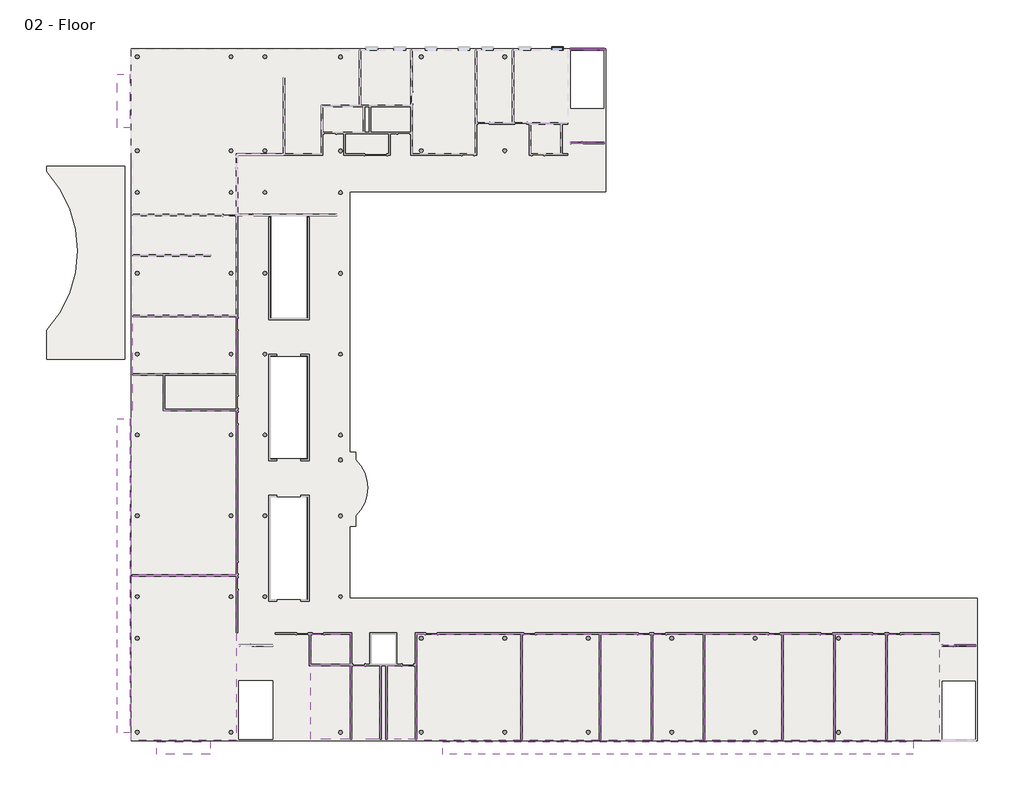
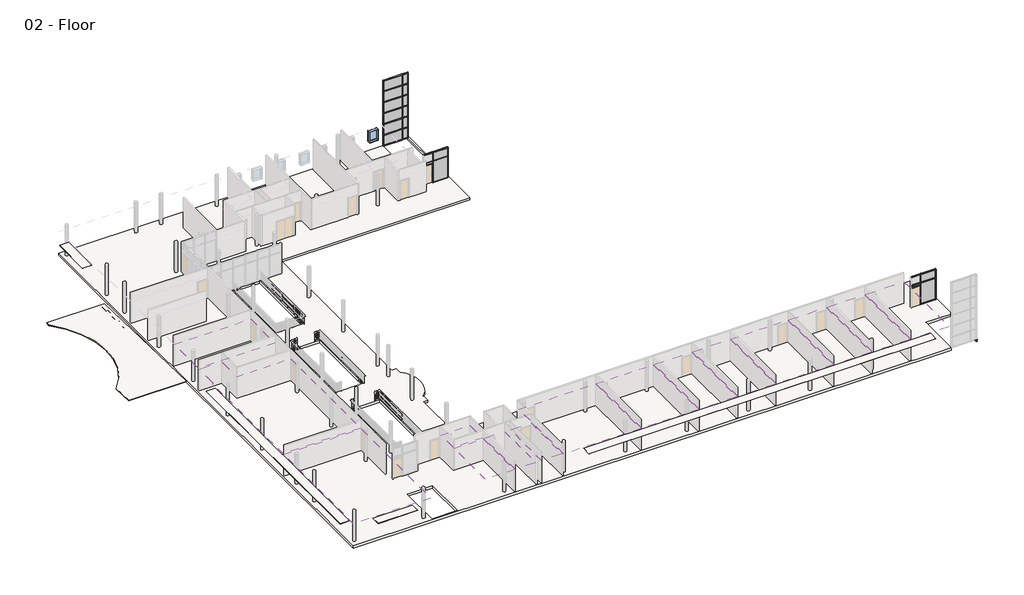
# One storey, part 4 of 5: 63 members, 17 plates, 15 coverings, 5 slabs, 1 roof, 1 window.
"""IFC4 building model written with IfcOpenShell, lengths in millimetres."""

from ifc_helpers import new_model, si_unit, point, frame, frame_2d, origin, place, context, project, spatial, polyline, circle_curve, ellipse_curve, trimmed, segment, composite_curve, outline, extrude, transform, mapped, element, save
from ifc_brep_helpers import plane_surface, revolved_surface, advanced_brep
from components import member_18e22e2d, member_9193c932, member_2b49869a, member_75074519, member_4f18b2ac, member_7a85b04f, member_0b7646a3, member_aaa03826, member_6186cc23, member_5d67b9fc, member_a50b3cda, member_c327c56d, member_410c6227, member_73c23c35, member_bcb6a316, member_d3323a85, member_7bd2cd2c, member_6be37683, member_e7b2e991, member_6c34f49c, member_dff87739, member_76223ac8, system_panel_glazed_ac179f57, system_panel_glazed_576e2b42, system_panel_glazed_d796fc41, system_panel_glazed_17912afe, system_panel_glazed_8dc8626f, system_panel_glazed_bb2f95a6, system_panel_glazed_de38c793, system_panel_glazed_3fe504bb, system_panel_glazed_00df446d, window_dfee3f32

model = new_model("IFC4")

# Units and contexts
model_context = context("Model", 3, world=origin())
ifc_project = project(units=[si_unit("LENGTHUNIT", "METRE", prefix="MILLI")], contexts=[model_context])

# Site, building, storey
site = spatial("IfcSite", under=ifc_project)
building = spatial("IfcBuilding", under=site)
storey = spatial("IfcBuildingStorey", under=building, Name="02 - Floor", Elevation=3657.6)

# Coverings
placement = place(None, origin())
element("IfcCovering", 1, ObjectType="2' x 2' ACT System", at=placement, inside=storey, context=model_context, shape_type="SweptSolid", body=[
    extrude(outline(polyline([(8370.2207476, 28520.95), (280.3207476, 28520.95), (280.3207476, 32965.95), (8370.2207476, 32965.95), (8370.2207476, 28520.95)])), frame((0.0, 0.0, 6096.0), z_axis=(0.0, 0.0, 1.0), x_axis=(1.0, 0.0, 0.0)), (0.0, 0.0, 1.0), 57.15),
])
element("IfcCovering", 2, ObjectType="2' x 2' ACT System", at=placement, inside=storey, context=model_context, shape_type="SweptSolid", body=[
    extrude(outline(polyline([(178.7207476, 12849.15), (178.7207476, 25701.55), (280.3207476, 25701.55), (280.3207476, 28406.65), (2661.5707476, 28406.65), (2661.5707476, 25638.05), (8370.2207476, 25638.05), (8370.2207476, 12849.15), (178.7207476, 12849.15)])), frame((0.0, 0.0, 6096.0), z_axis=(0.0, 0.0, 1.0), x_axis=(1.0, 0.0, 0.0)), (0.0, 0.0, 1.0), 57.15),
])
element("IfcCovering", 3, ObjectType="2' x 2' ACT System", at=placement, inside=storey, context=model_context, shape_type="SweptSolid", body=[
    extrude(outline(polyline([(17241.1707476, 5775.25), (17241.1707476, 53.9), (14180.4707476, 53.9), (14180.4707476, 5775.25), (17241.1707476, 5775.25)])), frame((0.0, 0.0, 6096.0), z_axis=(0.0, 0.0, 1.0), x_axis=(1.0, 0.0, 0.0)), (0.0, 0.0, 1.0), 57.15),
])
element("IfcCovering", 4, ObjectType="2' x 2' ACT System", at=placement, inside=storey, context=model_context, shape_type="SweptSolid", body=[
    extrude(outline(polyline([(14180.4707476, 8220.0), (17241.1707476, 8220.0), (17241.1707476, 5889.55), (14180.4707476, 5889.55), (14180.4707476, 8220.0)])), frame((0.0, 0.0, 6096.0), z_axis=(0.0, 0.0, 1.0), x_axis=(1.0, 0.0, 0.0)), (0.0, 0.0, 1.0), 57.15),
])
element("IfcCovering", 5, ObjectType="2' x 2' ACT System", at=placement, inside=storey, context=model_context, shape_type="SweptSolid", body=[
    extrude(outline(polyline([(19527.1707476, 53.9), (17355.4707476, 53.9), (17355.4707476, 5775.25), (19527.1707476, 5775.25), (19527.1707476, 53.9)])), frame((0.0, 0.0, 6096.0), z_axis=(0.0, 0.0, 1.0), x_axis=(1.0, 0.0, 0.0)), (0.0, 0.0, 1.0), 57.15),
])
element("IfcCovering", 6, ObjectType="2' x 2' ACT System", at=placement, inside=storey, context=model_context, shape_type="SweptSolid", body=[
    extrude(outline(polyline([(22308.4707476, 5775.25), (22308.4707476, 53.9), (20124.0707476, 53.9), (20124.0707476, 5775.25), (22308.4707476, 5775.25)])), frame((0.0, 0.0, 6096.0), z_axis=(0.0, 0.0, 1.0), x_axis=(1.0, 0.0, 0.0)), (0.0, 0.0, 1.0), 57.15),
])
element("IfcCovering", 7, ObjectType="2' x 2' ACT System", at=placement, inside=storey, context=model_context, shape_type="SweptSolid", body=[
    extrude(outline(polyline([(30538.0707476, 8220.0), (30538.0707476, -47.7), (22422.7707476, -47.7), (22422.7707476, 8220.0), (30538.0707476, 8220.0)])), frame((0.0, 0.0, 6096.0), z_axis=(0.0, 0.0, 1.0), x_axis=(1.0, 0.0, 0.0)), (0.0, 0.0, 1.0), 57.15),
])
element("IfcCovering", 8, ObjectType="2' x 2' ACT System", at=placement, inside=storey, context=model_context, shape_type="SweptSolid", body=[
    extrude(outline(polyline([(36634.0707476, 8220.0), (36634.0707476, -47.7), (30652.3707476, -47.7), (30652.3707476, 8220.0), (36634.0707476, 8220.0)])), frame((0.0, 0.0, 6096.0), z_axis=(0.0, 0.0, 1.0), x_axis=(1.0, 0.0, 0.0)), (0.0, 0.0, 1.0), 57.15),
])
element("IfcCovering", 9, ObjectType="2' x 2' ACT System", at=placement, inside=storey, context=model_context, shape_type="SweptSolid", body=[
    extrude(outline(polyline([(40698.0707476, 8220.0), (40698.0707476, -47.7), (36748.3707476, -47.7), (36748.3707476, 8220.0), (40698.0707476, 8220.0)])), frame((0.0, 0.0, 6096.0), z_axis=(0.0, 0.0, 1.0), x_axis=(1.0, 0.0, 0.0)), (0.0, 0.0, 1.0), 57.15),
])
element("IfcCovering", 10, ObjectType="2' x 2' ACT System", at=placement, inside=storey, context=model_context, shape_type="SweptSolid", body=[
    extrude(outline(polyline([(44762.0707476, 8220.0), (44762.0707476, -47.7), (40812.3707476, -47.7), (40812.3707476, 8220.0), (44762.0707476, 8220.0)])), frame((0.0, 0.0, 6096.0), z_axis=(0.0, 0.0, 1.0), x_axis=(1.0, 0.0, 0.0)), (0.0, 0.0, 1.0), 57.15),
])
element("IfcCovering", 11, ObjectType="2' x 2' ACT System", at=placement, inside=storey, context=model_context, shape_type="SweptSolid", body=[
    extrude(outline(polyline([(50858.0707476, 8220.0), (50858.0707476, -47.7), (44876.3707476, -47.7), (44876.3707476, 8220.0), (50858.0707476, 8220.0)])), frame((0.0, 0.0, 6096.0), z_axis=(0.0, 0.0, 1.0), x_axis=(1.0, 0.0, 0.0)), (0.0, 0.0, 1.0), 57.15),
])
element("IfcCovering", 12, ObjectType="2' x 2' ACT System", at=placement, inside=storey, context=model_context, shape_type="SweptSolid", body=[
    extrude(outline(polyline([(54922.0707476, 8220.0), (54922.0707476, -47.7), (50972.3707476, -47.7), (50972.3707476, 8220.0), (54922.0707476, 8220.0)])), frame((0.0, 0.0, 6096.0), z_axis=(0.0, 0.0, 1.0), x_axis=(1.0, 0.0, 0.0)), (0.0, 0.0, 1.0), 57.15),
])
element("IfcCovering", 13, ObjectType="2' x 2' ACT System", at=placement, inside=storey, context=model_context, shape_type="SweptSolid", body=[
    extrude(outline(polyline([(58986.0707476, 8220.0), (58986.0707476, -47.7), (55036.3707476, -47.7), (55036.3707476, 8220.0), (58986.0707476, 8220.0)])), frame((0.0, 0.0, 6096.0), z_axis=(0.0, 0.0, 1.0), x_axis=(1.0, 0.0, 0.0)), (0.0, 0.0, 1.0), 57.15),
])
element("IfcCovering", 14, ObjectType="2' x 2' ACT System", at=placement, inside=storey, context=model_context, shape_type="SweptSolid", body=[
    extrude(outline(polyline([(63137.3832476, 8220.0), (63137.3832476, -47.7), (59100.3707476, -47.7), (59100.3707476, 8220.0), (63137.3832476, 8220.0)])), frame((0.0, 0.0, 6096.0), z_axis=(0.0, 0.0, 1.0), x_axis=(1.0, 0.0, 0.0)), (0.0, 0.0, 1.0), 57.15),
])
element("IfcCovering", 15, ObjectType="2' x 2' ACT System", at=placement, inside=storey, context=model_context, shape_type="SweptSolid", body=[
    extrude(outline(polyline([(8357.5207476, -47.7), (178.7207476, -47.7), (178.7207476, 12734.85), (8370.2207476, 12734.85), (8370.2207476, 8334.3), (8357.5207476, 8334.3), (8357.5207476, -47.7)])), frame((0.0, 0.0, 6096.0), z_axis=(0.0, 0.0, 1.0), x_axis=(1.0, 0.0, 0.0)), (0.0, 0.0, 1.0), 57.15),
])

# Members
member_shape = member_18e22e2d(model_context)
element("IfcMember", 16, ObjectType="Rectangular Mullion : 2.5\" x 5\" rectangular", at=placement, inside=storey, context=model_context, shape_type="MappedRepresentation", body=[
    mapped(member_shape, transform((35414.8707476, 46523.2, 6096.0), x_axis=(1.0, 0.0, 0.0), y_axis=(0.0, -1.0, 0.0), z_axis=(0.0, 0.0, -1.0))),
])
element("IfcMember", 17, ObjectType="Rectangular Mullion : 2.5\" x 5\" rectangular", at=placement, inside=storey, context=model_context, shape_type="MappedRepresentation", body=[
    mapped(member_shape, transform((64358.1707476, 7356.4, 6096.0), x_axis=(1.0, 0.0, 0.0), y_axis=(0.0, -1.0, 0.0), z_axis=(0.0, 0.0, -1.0))),
])
member_2_shape = member_9193c932(model_context)
element("IfcMember", 18, ObjectType="Rectangular Mullion : 2.5\" x 5\" rectangular", at=placement, inside=storey, context=model_context, shape_type="MappedRepresentation", body=[
    mapped(member_2_shape, transform((66002.8207476, 7356.4, 6096.0), x_axis=(1.0, 0.0, 0.0), y_axis=(0.0, -1.0, 0.0), z_axis=(0.0, 0.0, -1.0))),
])
element("IfcMember", 19, ObjectType="Rectangular Mullion : 2.5\" x 5\" rectangular", at=placement, inside=storey, context=model_context, shape_type="MappedRepresentation", body=[
    mapped(member_2_shape, transform((37046.8207476, 46523.2, 6096.0), x_axis=(1.0, 0.0, 0.0), y_axis=(0.0, -1.0, 0.0), z_axis=(0.0, 0.0, -1.0))),
])
member_3_shape = member_2b49869a(model_context)
element("IfcMember", 20, ObjectType="Rectangular Mullion : 2.5\" x 5\" rectangular", at=placement, inside=storey, context=model_context, shape_type="MappedRepresentation", body=[
    mapped(member_3_shape, transform((36437.2207476, 53825.7, 9753.6), x_axis=(1.0, 0.0, 0.0), y_axis=(0.0, -1.0, 0.0), z_axis=(0.0, 0.0, -1.0))),
])
member_4_shape = member_75074519(model_context)
element("IfcMember", 21, ObjectType="Rectangular Mullion : 2.5\" x 5\" rectangular", at=placement, inside=storey, context=model_context, shape_type="MappedRepresentation", body=[
    mapped(member_4_shape, transform((34405.2207476, 53825.7, 10972.8), x_axis=(-1.0, 0.0, 0.0), y_axis=(0.0, -1.0, 0.0), z_axis=(0.0, 0.0, 1.0))),
])
element("IfcMember", 22, ObjectType="Rectangular Mullion : 2.5\" x 5\" rectangular", at=placement, inside=storey, context=model_context, shape_type="MappedRepresentation", body=[
    mapped(member_4_shape, transform((37046.8207476, 53825.7, 9753.6), x_axis=(1.0, 0.0, 0.0), y_axis=(0.0, -1.0, 0.0), z_axis=(0.0, 0.0, -1.0))),
])
member_5_shape = member_4f18b2ac(model_context)
element("IfcMember", 23, ObjectType="Rectangular Mullion : 2.5\" x 5\" rectangular", at=placement, inside=storey, context=model_context, shape_type="MappedRepresentation", body=[
    mapped(member_5_shape, transform((34468.7207476, 53825.7, 3657.6), x_axis=(0.0, 0.0, -1.0), y_axis=(0.0, -1.0, 0.0), z_axis=(-1.0, 0.0, 0.0))),
])
element("IfcMember", 24, ObjectType="Rectangular Mullion : 2.5\" x 5\" rectangular", at=placement, inside=storey, context=model_context, shape_type="MappedRepresentation", body=[
    mapped(member_5_shape, transform((36405.4707476, 53825.7, 10972.8), x_axis=(0.0, 0.0, 1.0), y_axis=(0.0, -1.0, 0.0), z_axis=(1.0, 0.0, 0.0))),
])
member_6_shape = member_7a85b04f(model_context)
element("IfcMember", 25, ObjectType="Rectangular Mullion : 2.5\" x 5\" rectangular", at=placement, inside=storey, context=model_context, shape_type="MappedRepresentation", body=[
    mapped(member_6_shape, transform((36405.4707476, 53825.7, 4876.8), x_axis=(0.0, 0.0, 1.0), y_axis=(0.0, -1.0, 0.0), z_axis=(1.0, 0.0, 0.0))),
])
element("IfcMember", 26, ObjectType="Rectangular Mullion : 2.5\" x 5\" rectangular", at=placement, inside=storey, context=model_context, shape_type="MappedRepresentation", body=[
    mapped(member_6_shape, transform((36405.4707476, 53825.7, 6096.0), x_axis=(0.0, 0.0, 1.0), y_axis=(0.0, -1.0, 0.0), z_axis=(1.0, 0.0, 0.0))),
])
element("IfcMember", 27, ObjectType="Rectangular Mullion : 2.5\" x 5\" rectangular", at=placement, inside=storey, context=model_context, shape_type="MappedRepresentation", body=[
    mapped(member_6_shape, transform((36405.4707476, 53825.7, 7315.2), x_axis=(0.0, 0.0, 1.0), y_axis=(0.0, -1.0, 0.0), z_axis=(1.0, 0.0, 0.0))),
])
element("IfcMember", 28, ObjectType="Rectangular Mullion : 2.5\" x 5\" rectangular", at=placement, inside=storey, context=model_context, shape_type="MappedRepresentation", body=[
    mapped(member_6_shape, transform((36405.4707476, 53825.7, 8534.4), x_axis=(0.0, 0.0, 1.0), y_axis=(0.0, -1.0, 0.0), z_axis=(1.0, 0.0, 0.0))),
])
element("IfcMember", 29, ObjectType="Rectangular Mullion : 2.5\" x 5\" rectangular", at=placement, inside=storey, context=model_context, shape_type="MappedRepresentation", body=[
    mapped(member_6_shape, transform((36405.4707476, 53825.7, 9753.6), x_axis=(0.0, 0.0, 1.0), y_axis=(0.0, -1.0, 0.0), z_axis=(1.0, 0.0, 0.0))),
])
element("IfcMember", 30, ObjectType="Rectangular Mullion : 2.5\" x 5\" rectangular", at=placement, inside=storey, context=model_context, shape_type="MappedRepresentation", body=[
    mapped(member_3_shape, transform((36437.2207476, 53825.7, 3657.6), x_axis=(1.0, 0.0, 0.0), y_axis=(0.0, -1.0, 0.0), z_axis=(0.0, 0.0, -1.0))),
])
element("IfcMember", 31, ObjectType="Rectangular Mullion : 2.5\" x 5\" rectangular", at=placement, inside=storey, context=model_context, shape_type="MappedRepresentation", body=[
    mapped(member_3_shape, transform((36437.2207476, 53825.7, 4876.8), x_axis=(1.0, 0.0, 0.0), y_axis=(0.0, -1.0, 0.0), z_axis=(0.0, 0.0, -1.0))),
])
element("IfcMember", 32, ObjectType="Rectangular Mullion : 2.5\" x 5\" rectangular", at=placement, inside=storey, context=model_context, shape_type="MappedRepresentation", body=[
    mapped(member_3_shape, transform((36437.2207476, 53825.7, 6096.0), x_axis=(1.0, 0.0, 0.0), y_axis=(0.0, -1.0, 0.0), z_axis=(0.0, 0.0, -1.0))),
])
element("IfcMember", 33, ObjectType="Rectangular Mullion : 2.5\" x 5\" rectangular", at=placement, inside=storey, context=model_context, shape_type="MappedRepresentation", body=[
    mapped(member_3_shape, transform((36437.2207476, 53825.7, 7315.2), x_axis=(1.0, 0.0, 0.0), y_axis=(0.0, -1.0, 0.0), z_axis=(0.0, 0.0, -1.0))),
])
element("IfcMember", 34, ObjectType="Rectangular Mullion : 2.5\" x 5\" rectangular", at=placement, inside=storey, context=model_context, shape_type="MappedRepresentation", body=[
    mapped(member_3_shape, transform((36437.2207476, 53825.7, 8534.4), x_axis=(1.0, 0.0, 0.0), y_axis=(0.0, -1.0, 0.0), z_axis=(0.0, 0.0, -1.0))),
])
member_7_shape = member_0b7646a3(model_context)
element("IfcMember", 35, ObjectType="Rectangular Mullion : 2.5\" x 5\" rectangular", at=placement, inside=storey, context=model_context, shape_type="MappedRepresentation", body=[
    mapped(member_7_shape, transform((36983.3207476, 53825.7, 10972.8), x_axis=(0.0, 0.0, 1.0), y_axis=(0.0, -1.0, 0.0), z_axis=(1.0, 0.0, 0.0))),
])
element("IfcMember", 36, ObjectType="Rectangular Mullion : 2.5\" x 5\" rectangular", at=placement, inside=storey, context=model_context, shape_type="MappedRepresentation", body=[
    mapped(member_7_shape, transform((36468.9707476, 53825.7, 3657.6), x_axis=(0.0, 0.0, -1.0), y_axis=(0.0, -1.0, 0.0), z_axis=(-1.0, 0.0, 0.0))),
])
member_8_shape = member_aaa03826(model_context)
element("IfcMember", 37, ObjectType="Rectangular Mullion : 2.5\" x 5\" rectangular", at=placement, inside=storey, context=model_context, shape_type="MappedRepresentation", body=[
    mapped(member_8_shape, transform((36983.3207476, 53825.7, 4876.8), x_axis=(0.0, 0.0, 1.0), y_axis=(0.0, -1.0, 0.0), z_axis=(1.0, 0.0, 0.0))),
])
element("IfcMember", 38, ObjectType="Rectangular Mullion : 2.5\" x 5\" rectangular", at=placement, inside=storey, context=model_context, shape_type="MappedRepresentation", body=[
    mapped(member_8_shape, transform((36983.3207476, 53825.7, 6096.0), x_axis=(0.0, 0.0, 1.0), y_axis=(0.0, -1.0, 0.0), z_axis=(1.0, 0.0, 0.0))),
])
element("IfcMember", 39, ObjectType="Rectangular Mullion : 2.5\" x 5\" rectangular", at=placement, inside=storey, context=model_context, shape_type="MappedRepresentation", body=[
    mapped(member_8_shape, transform((36983.3207476, 53825.7, 7315.2), x_axis=(0.0, 0.0, 1.0), y_axis=(0.0, -1.0, 0.0), z_axis=(1.0, 0.0, 0.0))),
])
element("IfcMember", 40, ObjectType="Rectangular Mullion : 2.5\" x 5\" rectangular", at=placement, inside=storey, context=model_context, shape_type="MappedRepresentation", body=[
    mapped(member_8_shape, transform((36983.3207476, 53825.7, 8534.4), x_axis=(0.0, 0.0, 1.0), y_axis=(0.0, -1.0, 0.0), z_axis=(1.0, 0.0, 0.0))),
])
element("IfcMember", 41, ObjectType="Rectangular Mullion : 2.5\" x 5\" rectangular", at=placement, inside=storey, context=model_context, shape_type="MappedRepresentation", body=[
    mapped(member_8_shape, transform((36983.3207476, 53825.7, 9753.6), x_axis=(0.0, 0.0, 1.0), y_axis=(0.0, -1.0, 0.0), z_axis=(1.0, 0.0, 0.0))),
])
element("IfcMember", 42, ObjectType="Rectangular Mullion : 2.5\" x 5\" rectangular", at=placement, inside=storey, context=model_context, shape_type="MappedRepresentation", body=[
    mapped(member_4_shape, transform((37046.8207476, 53825.7, 3657.6), x_axis=(1.0, 0.0, 0.0), y_axis=(0.0, -1.0, 0.0), z_axis=(0.0, 0.0, -1.0))),
])
element("IfcMember", 43, ObjectType="Rectangular Mullion : 2.5\" x 5\" rectangular", at=placement, inside=storey, context=model_context, shape_type="MappedRepresentation", body=[
    mapped(member_4_shape, transform((37046.8207476, 53825.7, 4876.8), x_axis=(1.0, 0.0, 0.0), y_axis=(0.0, -1.0, 0.0), z_axis=(0.0, 0.0, -1.0))),
])
element("IfcMember", 44, ObjectType="Rectangular Mullion : 2.5\" x 5\" rectangular", at=placement, inside=storey, context=model_context, shape_type="MappedRepresentation", body=[
    mapped(member_4_shape, transform((37046.8207476, 53825.7, 6096.0), x_axis=(1.0, 0.0, 0.0), y_axis=(0.0, -1.0, 0.0), z_axis=(0.0, 0.0, -1.0))),
])
element("IfcMember", 45, ObjectType="Rectangular Mullion : 2.5\" x 5\" rectangular", at=placement, inside=storey, context=model_context, shape_type="MappedRepresentation", body=[
    mapped(member_4_shape, transform((37046.8207476, 53825.7, 7315.2), x_axis=(1.0, 0.0, 0.0), y_axis=(0.0, -1.0, 0.0), z_axis=(0.0, 0.0, -1.0))),
])
element("IfcMember", 46, ObjectType="Rectangular Mullion : 2.5\" x 5\" rectangular", at=placement, inside=storey, context=model_context, shape_type="MappedRepresentation", body=[
    mapped(member_4_shape, transform((37046.8207476, 53825.7, 8534.4), x_axis=(1.0, 0.0, 0.0), y_axis=(0.0, -1.0, 0.0), z_axis=(0.0, 0.0, -1.0))),
])
element("IfcMember", 47, ObjectType="Rectangular Mullion : 2.5\" x 5\" rectangular", at=placement, inside=storey, context=model_context, shape_type="MappedRepresentation", body=[
    mapped(member_4_shape, transform((34405.2207476, 53825.7, 4876.8), x_axis=(-1.0, 0.0, 0.0), y_axis=(0.0, -1.0, 0.0), z_axis=(0.0, 0.0, 1.0))),
])
element("IfcMember", 48, ObjectType="Rectangular Mullion : 2.5\" x 5\" rectangular", at=placement, inside=storey, context=model_context, shape_type="MappedRepresentation", body=[
    mapped(member_4_shape, transform((34405.2207476, 53825.7, 6096.0), x_axis=(-1.0, 0.0, 0.0), y_axis=(0.0, -1.0, 0.0), z_axis=(0.0, 0.0, 1.0))),
])
element("IfcMember", 49, ObjectType="Rectangular Mullion : 2.5\" x 5\" rectangular", at=placement, inside=storey, context=model_context, shape_type="MappedRepresentation", body=[
    mapped(member_4_shape, transform((34405.2207476, 53825.7, 7315.2), x_axis=(-1.0, 0.0, 0.0), y_axis=(0.0, -1.0, 0.0), z_axis=(0.0, 0.0, 1.0))),
])
element("IfcMember", 50, ObjectType="Rectangular Mullion : 2.5\" x 5\" rectangular", at=placement, inside=storey, context=model_context, shape_type="MappedRepresentation", body=[
    mapped(member_4_shape, transform((34405.2207476, 53825.7, 8534.4), x_axis=(-1.0, 0.0, 0.0), y_axis=(0.0, -1.0, 0.0), z_axis=(0.0, 0.0, 1.0))),
])
element("IfcMember", 51, ObjectType="Rectangular Mullion : 2.5\" x 5\" rectangular", at=placement, inside=storey, context=model_context, shape_type="MappedRepresentation", body=[
    mapped(member_4_shape, transform((34405.2207476, 53825.7, 9753.6), x_axis=(-1.0, 0.0, 0.0), y_axis=(0.0, -1.0, 0.0), z_axis=(0.0, 0.0, 1.0))),
])
member_9_shape = member_6186cc23(model_context)
element("IfcMember", 52, ObjectType="Rectangular Mullion : 2.5\" x 5\" rectangular", at=placement, inside=storey, context=model_context, shape_type="MappedRepresentation", body=[
    mapped(member_9_shape, transform((35414.8707476, 46523.2, 3657.6), x_axis=(1.0, 0.0, 0.0), y_axis=(0.0, -1.0, 0.0), z_axis=(0.0, 0.0, -1.0))),
])
member_10_shape = member_5d67b9fc(model_context)
element("IfcMember", 53, ObjectType="Rectangular Mullion : 2.5\" x 5\" rectangular", at=placement, inside=storey, context=model_context, shape_type="MappedRepresentation", body=[
    mapped(member_10_shape, transform((35414.8707476, 46523.2, 5822.95), x_axis=(1.0, 0.0, 0.0), y_axis=(0.0, -1.0, 0.0), z_axis=(0.0, 0.0, -1.0))),
])
member_11_shape = member_a50b3cda(model_context)
element("IfcMember", 54, ObjectType="Rectangular Mullion : 2.5\" x 5\" rectangular", at=placement, inside=storey, context=model_context, shape_type="MappedRepresentation", body=[
    mapped(member_11_shape, transform((37046.8207476, 46523.2, 3657.6), x_axis=(1.0, 0.0, 0.0), y_axis=(0.0, -1.0, 0.0), z_axis=(0.0, 0.0, -1.0))),
])
member_12_shape = member_c327c56d(model_context)
element("IfcMember", 55, ObjectType="Rectangular Mullion : 2.5\" x 5\" rectangular", at=placement, inside=storey, context=model_context, shape_type="MappedRepresentation", body=[
    mapped(member_12_shape, transform((37046.8207476, 46523.2, 5822.95), x_axis=(1.0, 0.0, 0.0), y_axis=(0.0, -1.0, 0.0), z_axis=(0.0, 0.0, -1.0))),
])
member_13_shape = member_410c6227(model_context)
element("IfcMember", 56, ObjectType="Rectangular Mullion : 2.5\" x 5\" rectangular", at=placement, inside=storey, context=model_context, shape_type="MappedRepresentation", body=[
    mapped(member_13_shape, transform((35383.1207476, 46523.2, 6096.0), x_axis=(0.0, 0.0, 1.0), y_axis=(0.0, -1.0, 0.0), z_axis=(1.0, 0.0, 0.0))),
])
element("IfcMember", 57, ObjectType="Rectangular Mullion : 2.5\" x 5\" rectangular", at=placement, inside=storey, context=model_context, shape_type="MappedRepresentation", body=[
    mapped(member_13_shape, transform((35383.1207476, 46523.2, 5822.95), x_axis=(0.0, 0.0, 1.0), y_axis=(0.0, -1.0, 0.0), z_axis=(1.0, 0.0, 0.0))),
])
member_14_shape = member_73c23c35(model_context)
element("IfcMember", 58, ObjectType="Rectangular Mullion : 2.5\" x 5\" rectangular", at=placement, inside=storey, context=model_context, shape_type="MappedRepresentation", body=[
    mapped(member_14_shape, transform((35383.1207476, 46523.2, 7061.2), x_axis=(0.0, 0.0, 1.0), y_axis=(0.0, -1.0, 0.0), z_axis=(1.0, 0.0, 0.0))),
])
element("IfcMember", 59, ObjectType="Rectangular Mullion : 2.5\" x 5\" rectangular", at=placement, inside=storey, context=model_context, shape_type="MappedRepresentation", body=[
    mapped(member_11_shape, transform((34405.2207476, 46523.2, 5822.95), x_axis=(-1.0, 0.0, 0.0), y_axis=(0.0, -1.0, 0.0), z_axis=(0.0, 0.0, 1.0))),
])
member_15_shape = member_bcb6a316(model_context)
element("IfcMember", 60, ObjectType="Rectangular Mullion : 2.5\" x 5\" rectangular", at=placement, inside=storey, context=model_context, shape_type="MappedRepresentation", body=[
    mapped(member_15_shape, transform((35726.0207476, 46523.2, 3657.6), x_axis=(0.0, 0.0, -1.0), y_axis=(0.0, -1.0, 0.0), z_axis=(-1.0, 0.0, 0.0))),
])
member_16_shape = member_d3323a85(model_context)
element("IfcMember", 61, ObjectType="Rectangular Mullion : 2.5\" x 5\" rectangular", at=placement, inside=storey, context=model_context, shape_type="MappedRepresentation", body=[
    mapped(member_16_shape, transform((35446.6207476, 46523.2, 3657.6), x_axis=(0.0, 0.0, -1.0), y_axis=(0.0, -1.0, 0.0), z_axis=(-1.0, 0.0, 0.0))),
])
element("IfcMember", 62, ObjectType="Rectangular Mullion : 2.5\" x 5\" rectangular", at=placement, inside=storey, context=model_context, shape_type="MappedRepresentation", body=[
    mapped(member_15_shape, transform((36983.3207476, 46523.2, 7061.2), x_axis=(0.0, 0.0, 1.0), y_axis=(0.0, -1.0, 0.0), z_axis=(1.0, 0.0, 0.0))),
])
element("IfcMember", 63, ObjectType="Rectangular Mullion : 2.5\" x 5\" rectangular", at=placement, inside=storey, context=model_context, shape_type="MappedRepresentation", body=[
    mapped(member_16_shape, transform((35726.0207476, 46523.2, 7061.2), x_axis=(0.0, 0.0, 1.0), y_axis=(0.0, -1.0, 0.0), z_axis=(1.0, 0.0, 0.0))),
])
member_17_shape = member_7bd2cd2c(model_context)
element("IfcMember", 64, ObjectType="Rectangular Mullion : 2.5\" x 5\" rectangular", at=placement, inside=storey, context=model_context, shape_type="MappedRepresentation", body=[
    mapped(member_17_shape, transform((36983.3207476, 46523.2, 6096.0), x_axis=(0.0, 0.0, 1.0), y_axis=(0.0, -1.0, 0.0), z_axis=(1.0, 0.0, 0.0))),
])
member_18_shape = member_6be37683(model_context)
element("IfcMember", 65, ObjectType="Rectangular Mullion : 2.5\" x 5\" rectangular", at=placement, inside=storey, context=model_context, shape_type="MappedRepresentation", body=[
    mapped(member_18_shape, transform((35726.0207476, 46523.2, 6096.0), x_axis=(0.0, 0.0, 1.0), y_axis=(0.0, -1.0, 0.0), z_axis=(1.0, 0.0, 0.0))),
])
element("IfcMember", 66, ObjectType="Rectangular Mullion : 2.5\" x 5\" rectangular", at=placement, inside=storey, context=model_context, shape_type="MappedRepresentation", body=[
    mapped(member_13_shape, transform((64326.4207476, 7356.4, 6096.0), x_axis=(0.0, 0.0, 1.0), y_axis=(0.0, -1.0, 0.0), z_axis=(1.0, 0.0, 0.0))),
])
element("IfcMember", 67, ObjectType="Rectangular Mullion : 2.5\" x 5\" rectangular", at=placement, inside=storey, context=model_context, shape_type="MappedRepresentation", body=[
    mapped(member_13_shape, transform((64326.4207476, 7356.4, 5822.95), x_axis=(0.0, 0.0, 1.0), y_axis=(0.0, -1.0, 0.0), z_axis=(1.0, 0.0, 0.0))),
])
element("IfcMember", 68, ObjectType="Rectangular Mullion : 2.5\" x 5\" rectangular", at=placement, inside=storey, context=model_context, shape_type="MappedRepresentation", body=[
    mapped(member_14_shape, transform((64326.4207476, 7356.4, 7061.2), x_axis=(0.0, 0.0, 1.0), y_axis=(0.0, -1.0, 0.0), z_axis=(1.0, 0.0, 0.0))),
])
element("IfcMember", 69, ObjectType="Rectangular Mullion : 2.5\" x 5\" rectangular", at=placement, inside=storey, context=model_context, shape_type="MappedRepresentation", body=[
    mapped(member_9_shape, transform((64358.1707476, 7356.4, 3657.6), x_axis=(1.0, 0.0, 0.0), y_axis=(0.0, -1.0, 0.0), z_axis=(0.0, 0.0, -1.0))),
])
element("IfcMember", 70, ObjectType="Rectangular Mullion : 2.5\" x 5\" rectangular", at=placement, inside=storey, context=model_context, shape_type="MappedRepresentation", body=[
    mapped(member_10_shape, transform((64358.1707476, 7356.4, 5822.95), x_axis=(1.0, 0.0, 0.0), y_axis=(0.0, -1.0, 0.0), z_axis=(0.0, 0.0, -1.0))),
])
element("IfcMember", 71, ObjectType="Rectangular Mullion : 2.5\" x 5\" rectangular", at=placement, inside=storey, context=model_context, shape_type="MappedRepresentation", body=[
    mapped(member_11_shape, transform((66002.8207476, 7356.4, 3657.6), x_axis=(1.0, 0.0, 0.0), y_axis=(0.0, -1.0, 0.0), z_axis=(0.0, 0.0, -1.0))),
])
element("IfcMember", 72, ObjectType="Rectangular Mullion : 2.5\" x 5\" rectangular", at=placement, inside=storey, context=model_context, shape_type="MappedRepresentation", body=[
    mapped(member_12_shape, transform((66002.8207476, 7356.4, 5822.95), x_axis=(1.0, 0.0, 0.0), y_axis=(0.0, -1.0, 0.0), z_axis=(0.0, 0.0, -1.0))),
])
member_19_shape = member_e7b2e991(model_context)
element("IfcMember", 73, ObjectType="Rectangular Mullion : 2.5\" x 5\" rectangular", at=placement, inside=storey, context=model_context, shape_type="MappedRepresentation", body=[
    mapped(member_19_shape, transform((64675.6707476, 7356.4, 3657.6), x_axis=(0.0, 0.0, -1.0), y_axis=(0.0, -1.0, 0.0), z_axis=(-1.0, 0.0, 0.0))),
])
member_20_shape = member_6c34f49c(model_context)
element("IfcMember", 74, ObjectType="Rectangular Mullion : 2.5\" x 5\" rectangular", at=placement, inside=storey, context=model_context, shape_type="MappedRepresentation", body=[
    mapped(member_20_shape, transform((64389.9207476, 7356.4, 3657.6), x_axis=(0.0, 0.0, -1.0), y_axis=(0.0, -1.0, 0.0), z_axis=(-1.0, 0.0, 0.0))),
])
member_21_shape = member_dff87739(model_context)
element("IfcMember", 75, ObjectType="Rectangular Mullion : 2.5\" x 5\" rectangular", at=placement, inside=storey, context=model_context, shape_type="MappedRepresentation", body=[
    mapped(member_21_shape, transform((64675.6707476, 7356.4, 6096.0), x_axis=(0.0, 0.0, 1.0), y_axis=(0.0, -1.0, 0.0), z_axis=(1.0, 0.0, 0.0))),
])
member_22_shape = member_76223ac8(model_context)
element("IfcMember", 76, ObjectType="Rectangular Mullion : 2.5\" x 5\" rectangular", at=placement, inside=storey, context=model_context, shape_type="MappedRepresentation", body=[
    mapped(member_22_shape, transform((65939.3207476, 7356.4, 6096.0), x_axis=(0.0, 0.0, 1.0), y_axis=(0.0, -1.0, 0.0), z_axis=(1.0, 0.0, 0.0))),
])
element("IfcMember", 77, ObjectType="Rectangular Mullion : 2.5\" x 5\" rectangular", at=placement, inside=storey, context=model_context, shape_type="MappedRepresentation", body=[
    mapped(member_19_shape, transform((65939.3207476, 7356.4, 7061.2), x_axis=(0.0, 0.0, 1.0), y_axis=(0.0, -1.0, 0.0), z_axis=(1.0, 0.0, 0.0))),
])
element("IfcMember", 78, ObjectType="Rectangular Mullion : 2.5\" x 5\" rectangular", at=placement, inside=storey, context=model_context, shape_type="MappedRepresentation", body=[
    mapped(member_20_shape, transform((64675.6707476, 7356.4, 7061.2), x_axis=(0.0, 0.0, 1.0), y_axis=(0.0, -1.0, 0.0), z_axis=(1.0, 0.0, 0.0))),
])

# Plates
system_panel_glazed_shape = system_panel_glazed_ac179f57(model_context)
element("IfcPlate", 79, ObjectType="System Panel : Glazed", at=placement, inside=storey, context=model_context, shape_type="MappedRepresentation", body=[
    mapped(system_panel_glazed_shape, transform((35437.0957476, 53825.7, 3721.1), x_axis=(1.0, 0.0, 0.0), y_axis=(0.0, 1.0, 0.0), z_axis=(0.0, 0.0, 1.0))),
])
element("IfcPlate", 80, ObjectType="System Panel : Glazed", at=placement, inside=storey, context=model_context, shape_type="MappedRepresentation", body=[
    mapped(system_panel_glazed_shape, transform((35437.0957476, 53825.7, 9785.35), x_axis=(1.0, 0.0, 0.0), y_axis=(0.0, 1.0, 0.0), z_axis=(0.0, 0.0, 1.0))),
])
system_panel_glazed_2_shape = system_panel_glazed_576e2b42(model_context)
element("IfcPlate", 81, ObjectType="System Panel : Glazed", at=placement, inside=storey, context=model_context, shape_type="MappedRepresentation", body=[
    mapped(system_panel_glazed_2_shape, transform((35437.0957476, 53825.7, 4908.55), x_axis=(1.0, 0.0, 0.0), y_axis=(0.0, 1.0, 0.0), z_axis=(0.0, 0.0, 1.0))),
])
element("IfcPlate", 82, ObjectType="System Panel : Glazed", at=placement, inside=storey, context=model_context, shape_type="MappedRepresentation", body=[
    mapped(system_panel_glazed_2_shape, transform((35437.0957476, 53825.7, 6127.75), x_axis=(1.0, 0.0, 0.0), y_axis=(0.0, 1.0, 0.0), z_axis=(0.0, 0.0, 1.0))),
])
element("IfcPlate", 83, ObjectType="System Panel : Glazed", at=placement, inside=storey, context=model_context, shape_type="MappedRepresentation", body=[
    mapped(system_panel_glazed_2_shape, transform((35437.0957476, 53825.7, 7346.95), x_axis=(1.0, 0.0, 0.0), y_axis=(0.0, 1.0, 0.0), z_axis=(0.0, 0.0, 1.0))),
])
element("IfcPlate", 84, ObjectType="System Panel : Glazed", at=placement, inside=storey, context=model_context, shape_type="MappedRepresentation", body=[
    mapped(system_panel_glazed_2_shape, transform((35437.0957476, 53825.7, 8566.15), x_axis=(1.0, 0.0, 0.0), y_axis=(0.0, 1.0, 0.0), z_axis=(0.0, 0.0, 1.0))),
])
system_panel_glazed_3_shape = system_panel_glazed_d796fc41(model_context)
element("IfcPlate", 85, ObjectType="System Panel : Glazed", at=placement, inside=storey, context=model_context, shape_type="MappedRepresentation", body=[
    mapped(system_panel_glazed_3_shape, transform((36726.1457476, 53825.7, 3721.1), x_axis=(1.0, 0.0, 0.0), y_axis=(0.0, 1.0, 0.0), z_axis=(0.0, 0.0, 1.0))),
])
element("IfcPlate", 86, ObjectType="System Panel : Glazed", at=placement, inside=storey, context=model_context, shape_type="MappedRepresentation", body=[
    mapped(system_panel_glazed_3_shape, transform((36726.1457476, 53825.7, 9785.35), x_axis=(1.0, 0.0, 0.0), y_axis=(0.0, 1.0, 0.0), z_axis=(0.0, 0.0, 1.0))),
])
system_panel_glazed_4_shape = system_panel_glazed_17912afe(model_context)
element("IfcPlate", 87, ObjectType="System Panel : Glazed", at=placement, inside=storey, context=model_context, shape_type="MappedRepresentation", body=[
    mapped(system_panel_glazed_4_shape, transform((36726.1457476, 53825.7, 4908.55), x_axis=(1.0, 0.0, 0.0), y_axis=(0.0, 1.0, 0.0), z_axis=(0.0, 0.0, 1.0))),
])
element("IfcPlate", 88, ObjectType="System Panel : Glazed", at=placement, inside=storey, context=model_context, shape_type="MappedRepresentation", body=[
    mapped(system_panel_glazed_4_shape, transform((36726.1457476, 53825.7, 6127.75), x_axis=(1.0, 0.0, 0.0), y_axis=(0.0, 1.0, 0.0), z_axis=(0.0, 0.0, 1.0))),
])
element("IfcPlate", 89, ObjectType="System Panel : Glazed", at=placement, inside=storey, context=model_context, shape_type="MappedRepresentation", body=[
    mapped(system_panel_glazed_4_shape, transform((36726.1457476, 53825.7, 7346.95), x_axis=(1.0, 0.0, 0.0), y_axis=(0.0, 1.0, 0.0), z_axis=(0.0, 0.0, 1.0))),
])
element("IfcPlate", 90, ObjectType="System Panel : Glazed", at=placement, inside=storey, context=model_context, shape_type="MappedRepresentation", body=[
    mapped(system_panel_glazed_4_shape, transform((36726.1457476, 53825.7, 8566.15), x_axis=(1.0, 0.0, 0.0), y_axis=(0.0, 1.0, 0.0), z_axis=(0.0, 0.0, 1.0))),
])
system_panel_glazed_5_shape = system_panel_glazed_8dc8626f(model_context)
element("IfcPlate", 91, ObjectType="System Panel : Glazed", at=placement, inside=storey, context=model_context, shape_type="MappedRepresentation", body=[
    mapped(system_panel_glazed_5_shape, transform((34925.9207476, 46523.2, 5854.7), x_axis=(1.0, 0.0, 0.0), y_axis=(0.0, 1.0, 0.0), z_axis=(0.0, 0.0, 1.0))),
])
system_panel_glazed_6_shape = system_panel_glazed_bb2f95a6(model_context)
element("IfcPlate", 92, ObjectType="System Panel : Glazed", at=placement, inside=storey, context=model_context, shape_type="MappedRepresentation", body=[
    mapped(system_panel_glazed_6_shape, transform((36214.9707476, 46523.2, 3721.1), x_axis=(1.0, 0.0, 0.0), y_axis=(0.0, 1.0, 0.0), z_axis=(0.0, 0.0, 1.0))),
])
system_panel_glazed_7_shape = system_panel_glazed_de38c793(model_context)
element("IfcPlate", 93, ObjectType="System Panel : Glazed", at=placement, inside=storey, context=model_context, shape_type="MappedRepresentation", body=[
    mapped(system_panel_glazed_7_shape, transform((36214.9707476, 46523.2, 6127.75), x_axis=(1.0, 0.0, 0.0), y_axis=(0.0, 1.0, 0.0), z_axis=(0.0, 0.0, 1.0))),
])
system_panel_glazed_8_shape = system_panel_glazed_3fe504bb(model_context)
element("IfcPlate", 94, ObjectType="System Panel : Glazed", at=placement, inside=storey, context=model_context, shape_type="MappedRepresentation", body=[
    mapped(system_panel_glazed_8_shape, transform((65164.6207476, 7356.4, 6127.75), x_axis=(1.0, 0.0, 0.0), y_axis=(0.0, 1.0, 0.0), z_axis=(0.0, 0.0, 1.0))),
])
system_panel_glazed_9_shape = system_panel_glazed_00df446d(model_context)
element("IfcPlate", 95, ObjectType="System Panel : Glazed", at=placement, inside=storey, context=model_context, shape_type="MappedRepresentation", body=[
    mapped(system_panel_glazed_9_shape, transform((65164.6207476, 7356.4, 3721.1), x_axis=(1.0, 0.0, 0.0), y_axis=(0.0, 1.0, 0.0), z_axis=(0.0, 0.0, 1.0))),
])

# Roof
element("IfcRoof", 96, ObjectType="Generic - 3\"", at=placement, inside=storey, context=model_context, shape_type="AdvancedBrep", body=[
    advanced_brep(
    [(-6425.2792524, 44707.1, 3657.6), (-329.2792524, 44707.1, 3657.6), (-329.2792524, 29676.65, 4114.8), (-6425.2792524, 29676.65, 4114.8), (-6425.2792524, 31911.85, 4046.8091255), (-6425.2792524, 44300.7, 3669.9619772), (-329.2792524, 44707.1, 3733.8352446), (-6425.2792524, 44707.1, 3733.8352446), (-6425.2792524, 44300.7, 3746.1972218), (-6425.2792524, 31911.85, 4123.0443701), (-6425.2792524, 29676.65, 4191.0352446), (-329.2792524, 29676.65, 4191.0352446)],
    [
        (0, 1),
        (1, 2),
        (2, 3),
        (3, 4),
        (4, 5, ellipse_curve(frame((-13151.4843429, 38106.275, 3858.3855513), z_axis=(0.0, 0.030404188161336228, 0.9995376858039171), x_axis=(0.0, -0.9995376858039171, 0.030404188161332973)), 9148.2293563, 9144.0)),
        (5, 0),
        (6, 7),
        (7, 8),
        (8, 9, ellipse_curve(frame((-13151.4843429, 38106.275, 3934.620796), z_axis=(0.0, -0.030404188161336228, -0.9995376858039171), x_axis=(0.0, -0.9995376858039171, 0.030404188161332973)), 9148.2293563, 9144.0)),
        (9, 10),
        (10, 11),
        (11, 6),
        (6, 1),
        (0, 7),
        (11, 2),
        (10, 3),
        (5, 8),
        (9, 4),
    ],
    [
        plane_surface(frame((-329.2792524, 44707.1, 3657.6), z_axis=(0.0, -0.030404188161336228, -0.9995376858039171), x_axis=(-1.0, 0.0, 0.0))),
        plane_surface(frame((-329.2792524, 44707.1, 3733.8352446), z_axis=(0.0, 0.030404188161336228, 0.9995376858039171), x_axis=(-1.0, 0.0, 0.0))),
        plane_surface(frame((-329.2792524, 44707.1, 3657.6), z_axis=(0.0, 1.0, 0.0), x_axis=(-1.0, 0.0, 0.0))),
        plane_surface(frame((-329.2792524, 29676.65, 3657.6), z_axis=(1.0, 0.0, 0.0), x_axis=(0.0, 1.0, 0.0))),
        plane_surface(frame((-6425.2792524, 29676.65, 3657.6), z_axis=(0.0, -1.0, 0.0), x_axis=(1.0, 0.0, 0.0))),
        plane_surface(frame((-6425.2792524, 44707.1, 3657.6), z_axis=(-1.0, 0.0, 0.0), x_axis=(0.0, -1.0, 0.0))),
        plane_surface(frame((-6425.2792524, 31911.85, 3657.6), z_axis=(-1.0, 0.0, 0.0), x_axis=(0.0, -1.0, 0.0))),
        revolved_surface(polyline([(-4007.4843428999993, 38106.275, 4212.765282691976), (-4007.4843428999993, 38106.275, 3580.2410646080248)]), (-13151.4843429, 38106.275, 3657.6), (0.0, 0.0, 1.0)),
    ],
    [
        (0, [[1, 2, 3, 4, 5, 6]]),
        (1, [[7, 8, 9, 10, 11, 12]]),
        (2, [[-7, 13, -1, 14]]),
        (3, [[-12, 15, -2, -13]]),
        (4, [[-11, 16, -3, -15]]),
        (5, [[-8, -14, -6, 17]]),
        (6, [[-10, 18, -4, -16]]),
        (7, [[-9, -17, -5, -18]]),
    ],
),
])

# Slabs
element("IfcSlab", 97, ObjectType="8\" Hollow Core Plank w/2\" Topping", at=placement, inside=storey, context=model_context, shape_type="SweptSolid", body=[
    extrude(outline(composite_curve([segment(polyline([(159.6707476, -66.75), (159.6707476, 53844.75), (34405.2207476, 53844.75), (34405.2207476, 49177.5), (37046.8207476, 49177.5), (37046.8207476, 53844.75), (37167.4707476, 53844.75), (37167.4707476, 42732.25), (17203.0707476, 42732.25), (17203.0707476, 22431.3), (17688.9115197, 22431.3), (17688.9115197, 21821.7)]), True, "CONTINUOUS"), segment(trimmed(circle_curve(frame_2d((15556.6821236, 19643.65)), 3048.0), [point((17688.9115197, 21821.7))], [point((17688.9115197, 17465.6))], False, "CARTESIAN"), True, "CONTINUOUS"), segment(polyline([(17688.9115197, 17465.6), (17688.9115197, 16665.5), (17203.0707476, 16665.5), (17203.0707476, 11020.35), (66123.4707476, 11020.35), (66123.4707476, -66.75), (65990.1207476, -66.75), (65990.1207476, 4600.5), (63348.5207476, 4600.5), (63348.5207476, -66.75), (159.6707476, -66.75)]), True, "CONTINUOUS")], self_intersect=False), holes=[polyline([(13861.9313552, 32908.8), (13861.9313552, 40833.6), (11071.9313551, 40833.6), (11071.9313551, 32908.8), (13861.9313552, 32908.8)]), polyline([(13871.9313552, 21936.0), (13871.9313552, 29860.8), (11051.7313551, 29860.8), (11051.7313551, 21936.0), (13871.9313552, 21936.0)]), polyline([(13871.9313551, 10963.2), (13871.9313551, 18888.0), (11051.7313551, 18888.0), (11051.7313551, 10963.2), (13871.9313551, 10963.2)]), polyline([(11202.3207476, 53.9), (11202.3207476, 4600.5), (8560.7207476, 4600.5), (8560.7207476, 53.9), (11202.3207476, 53.9)]), polyline([(20765.4207476, 5895.9), (20765.4207476, 8207.3), (18885.8207476, 8207.3), (18885.8207476, 5895.9), (20765.4207476, 5895.9)])]), frame((0.0, 0.0, 3403.6), z_axis=(0.0, 0.0, 1.0), x_axis=(1.0, 0.0, 0.0)), (0.0, 0.0, 1.0), 254.0),
])
element("IfcSlab", 98, ObjectType="Metal Sunscreen", at=placement, inside=storey, context=model_context, shape_type="SweptSolid", body=[
    extrude(outline(polyline([(6325.5207476, -1127.2), (2159.9207476, -1127.2), (2159.9207476, -162.0), (6325.5207476, -162.0), (6325.5207476, -1127.2)])), frame((0.0, 0.0, 6083.3), z_axis=(0.0, 0.0, 1.0), x_axis=(1.0, 0.0, 0.0)), (0.0, 0.0, 1.0), 12.7),
])
element("IfcSlab", 99, ObjectType="Metal Sunscreen", at=placement, inside=storey, context=model_context, shape_type="SweptSolid", body=[
    extrude(outline(polyline([(61126.0207476, -1127.2), (24448.4207476, -1127.2), (24448.4207476, -162.0), (61126.0207476, -162.0), (61126.0207476, -1127.2)])), frame((0.0, 0.0, 6083.3), z_axis=(0.0, 0.0, 1.0), x_axis=(1.0, 0.0, 0.0)), (0.0, 0.0, 1.0), 12.7),
])
element("IfcSlab", 100, ObjectType="Metal Sunscreen", at=placement, inside=storey, context=model_context, shape_type="SweptSolid", body=[
    extrude(outline(polyline([(64.4207476, 549.2), (-900.7792524, 549.2), (-900.7792524, 25034.8), (64.4207476, 25034.8), (64.4207476, 549.2)])), frame((0.0, 0.0, 6083.3), z_axis=(0.0, 0.0, 1.0), x_axis=(1.0, 0.0, 0.0)), (0.0, 0.0, 1.0), 12.7),
])
element("IfcSlab", 101, ObjectType="Metal Sunscreen", at=placement, inside=storey, context=model_context, shape_type="SweptSolid", body=[
    extrude(outline(polyline([(64.4207476, 47697.95), (-900.7792524, 47697.95), (-900.7792524, 51863.55), (64.4207476, 51863.55), (64.4207476, 47697.95)])), frame((0.0, 0.0, 6083.3), z_axis=(0.0, 0.0, 1.0), x_axis=(1.0, 0.0, 0.0)), (0.0, 0.0, 1.0), 12.7),
])

# Window
window_shape = window_dfee3f32(model_context)
element("IfcWindow", 102, ObjectType="Fixed : 36\" x 48\"", at=placement, inside=storey, context=model_context, shape_type="MappedRepresentation", body=[
    mapped(window_shape, transform((33427.3207476, 53878.0875, 3657.6), x_axis=(1.0, 0.0, 0.0), y_axis=(0.0, 1.0, 0.0), z_axis=(0.0, 0.0, 1.0))),
])

save(model, "model.ifc")
